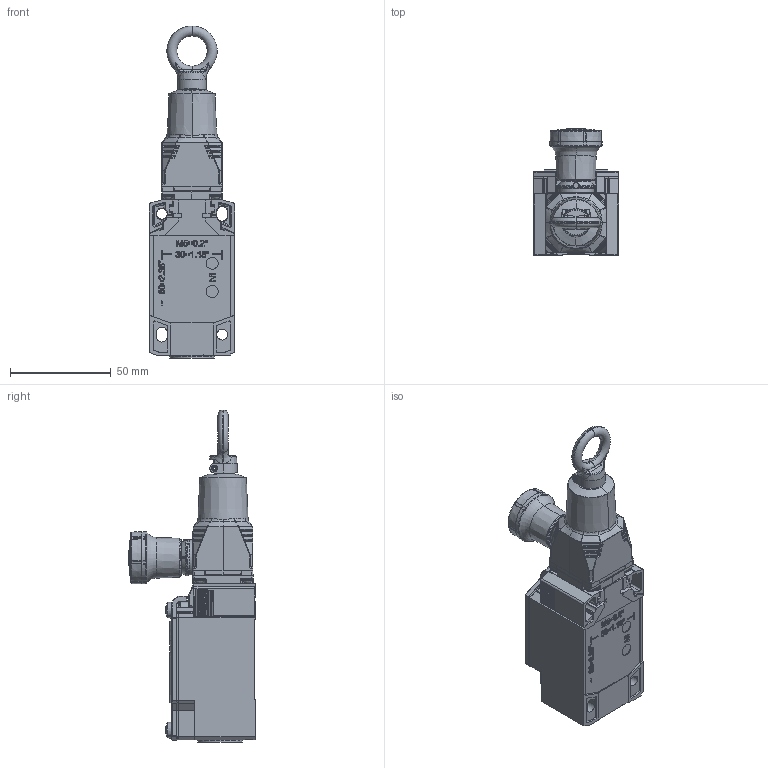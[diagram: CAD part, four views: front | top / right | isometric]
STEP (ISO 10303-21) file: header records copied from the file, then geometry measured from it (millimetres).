
FILE_DESCRIPTION((''),'2;1');
FILE_NAME('2032387','2022-02-28T11:44:58',('t.hampe'),(''),'CREO PARAMETRIC BY PTC INC, 2019292','CREO PARAMETRIC BY PTC INC, 2019292','');
FILE_SCHEMA(('AUTOMOTIVE_DESIGN { 1 0 10303 214 1 1 1 1 }'));
Products named in the file (1): 2032387
Bounding box: 42.48 x 62.83 x 165.03 mm (x, y, z)
Surface area: 42102.2 mm2 (no closed solid volume)
Topology: 0 solids, 23 shells, 2350 faces, 7501 edges, 4942 vertices
Faces by surface type: plane 815, cylinder 633, bspline 333, extrusion 234, torus 154, sphere 100, cone 81
Entity records: 151250 total; most frequent: CARTESIAN_POINT 52333, ORIENTED_EDGE 12779, DIRECTION 10509, PRESENTATION_STYLE_ASSIGNMENT 9891, STYLED_ITEM 7653, CURVE_STYLE 7630, EDGE_CURVE 7395, VERTEX_POINT 4942
